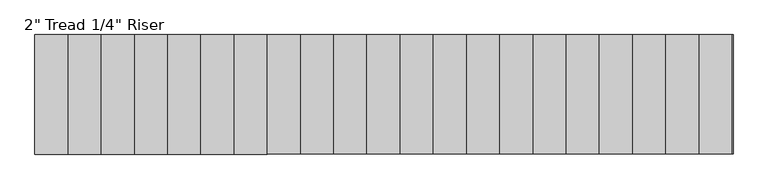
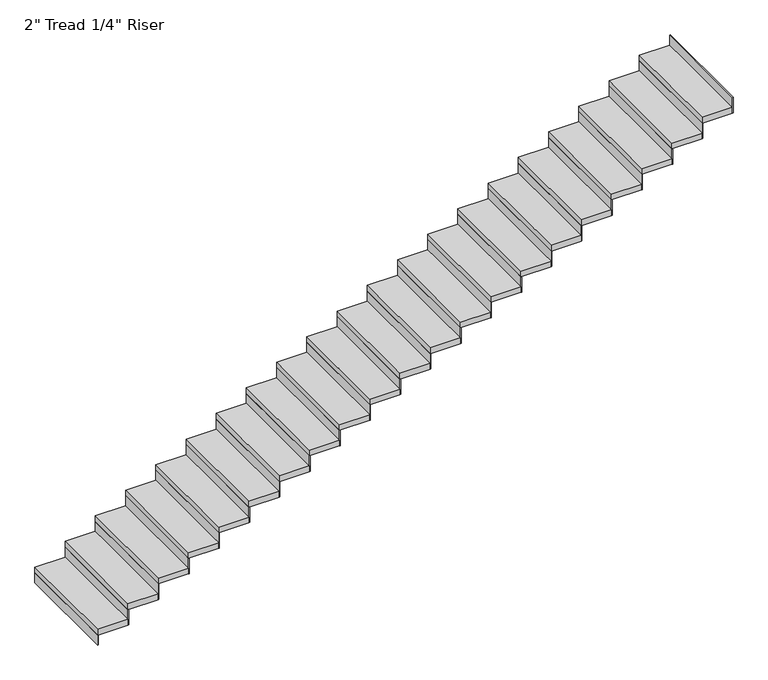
"""IFC4 building model written with IfcOpenShell, lengths in millimetres: stair flight geometry."""

from ifc_helpers import new_model, si_unit, frame, origin, origin_with_axes, place, context, project, spatial, polyline, outline, extrude, source, transform, mapped, element, save


def stair_flight_7b8c4553(model_context):
    return source(origin(), model_context, "Body", "SweptSolid", [
        extrude(outline(polyline([(-14526.9713318, 14907.564969), (-14533.3213318, 14907.564969), (-14533.3213318, 15821.964969), (-14526.9713318, 15821.964969), (-14526.9713318, 14907.564969)])), origin_with_axes(), (0.0, 0.0, 1.0), 87.7454545),
        extrude(outline(polyline([(-14279.3213318, 15821.964969), (-14279.3213318, 14907.564969), (-14533.3213318, 14907.564969), (-14533.3213318, 15821.964969), (-14279.3213318, 15821.964969)])), frame((0.0, 0.0, 87.7454545), z_axis=(0.0, 0.0, 1.0), x_axis=(1.0, 0.0, 0.0)), (0.0, 0.0, 1.0), 50.8),
        extrude(outline(polyline([(-14272.9713318, 14907.564969), (-14279.3213318, 14907.564969), (-14279.3213318, 15821.964969), (-14272.9713318, 15821.964969), (-14272.9713318, 14907.564969)])), frame((0.0, 0.0, 87.7454545), z_axis=(0.0, 0.0, 1.0), x_axis=(1.0, 0.0, 0.0)), (0.0, 0.0, 1.0), 138.5454545),
        extrude(outline(polyline([(-14025.3213318, 15821.964969), (-14025.3213318, 14907.564969), (-14279.3213318, 14907.564969), (-14279.3213318, 15821.964969), (-14025.3213318, 15821.964969)])), frame((0.0, 0.0, 226.2909091), z_axis=(0.0, 0.0, 1.0), x_axis=(1.0, 0.0, 0.0)), (0.0, 0.0, 1.0), 50.8),
        extrude(outline(polyline([(-14018.9713318, 14907.564969), (-14025.3213318, 14907.564969), (-14025.3213318, 15821.964969), (-14018.9713318, 15821.964969), (-14018.9713318, 14907.564969)])), frame((0.0, 0.0, 226.2909091), z_axis=(0.0, 0.0, 1.0), x_axis=(1.0, 0.0, 0.0)), (0.0, 0.0, 1.0), 138.5454545),
        extrude(outline(polyline([(-13771.3213318, 15821.964969), (-13771.3213318, 14907.564969), (-14025.3213318, 14907.564969), (-14025.3213318, 15821.964969), (-13771.3213318, 15821.964969)])), frame((0.0, 0.0, 364.8363636), z_axis=(0.0, 0.0, 1.0), x_axis=(1.0, 0.0, 0.0)), (0.0, 0.0, 1.0), 50.8),
        extrude(outline(polyline([(-13764.9713318, 14907.564969), (-13771.3213318, 14907.564969), (-13771.3213318, 15821.964969), (-13764.9713318, 15821.964969), (-13764.9713318, 14907.564969)])), frame((0.0, 0.0, 364.8363636), z_axis=(0.0, 0.0, 1.0), x_axis=(1.0, 0.0, 0.0)), (0.0, 0.0, 1.0), 138.5454545),
        extrude(outline(polyline([(-13517.3213318, 15821.964969), (-13517.3213318, 14907.564969), (-13771.3213318, 14907.564969), (-13771.3213318, 15821.964969), (-13517.3213318, 15821.964969)])), frame((0.0, 0.0, 503.3818182), z_axis=(0.0, 0.0, 1.0), x_axis=(1.0, 0.0, 0.0)), (0.0, 0.0, 1.0), 50.8),
        extrude(outline(polyline([(-13510.9713318, 14907.564969), (-13517.3213318, 14907.564969), (-13517.3213318, 15821.964969), (-13510.9713318, 15821.964969), (-13510.9713318, 14907.564969)])), frame((0.0, 0.0, 503.3818182), z_axis=(0.0, 0.0, 1.0), x_axis=(1.0, 0.0, 0.0)), (0.0, 0.0, 1.0), 138.5454545),
        extrude(outline(polyline([(-13263.3213318, 15821.964969), (-13263.3213318, 14907.564969), (-13517.3213318, 14907.564969), (-13517.3213318, 15821.964969), (-13263.3213318, 15821.964969)])), frame((0.0, 0.0, 641.9272727), z_axis=(0.0, 0.0, 1.0), x_axis=(1.0, 0.0, 0.0)), (0.0, 0.0, 1.0), 50.8),
        extrude(outline(polyline([(-13256.9713318, 14907.564969), (-13263.3213318, 14907.564969), (-13263.3213318, 15821.964969), (-13256.9713318, 15821.964969), (-13256.9713318, 14907.564969)])), frame((0.0, 0.0, 641.9272727), z_axis=(0.0, 0.0, 1.0), x_axis=(1.0, 0.0, 0.0)), (0.0, 0.0, 1.0), 138.5454545),
        extrude(outline(polyline([(-13009.3213318, 15821.964969), (-13009.3213318, 14907.564969), (-13263.3213318, 14907.564969), (-13263.3213318, 15821.964969), (-13009.3213318, 15821.964969)])), frame((0.0, 0.0, 780.4727273), z_axis=(0.0, 0.0, 1.0), x_axis=(1.0, 0.0, 0.0)), (0.0, 0.0, 1.0), 50.8),
        extrude(outline(polyline([(-13002.9713318, 14907.564969), (-13009.3213318, 14907.564969), (-13009.3213318, 15821.964969), (-13002.9713318, 15821.964969), (-13002.9713318, 14907.564969)])), frame((0.0, 0.0, 780.4727273), z_axis=(0.0, 0.0, 1.0), x_axis=(1.0, 0.0, 0.0)), (0.0, 0.0, 1.0), 138.5454545),
        extrude(outline(polyline([(-12755.3213318, 15821.964969), (-12755.3213318, 14907.564969), (-13009.3213318, 14907.564969), (-13009.3213318, 15821.964969), (-12755.3213318, 15821.964969)])), frame((0.0, 0.0, 919.0181818), z_axis=(0.0, 0.0, 1.0), x_axis=(1.0, 0.0, 0.0)), (0.0, 0.0, 1.0), 50.8),
        extrude(outline(polyline([(-12748.9713318, 14907.564969), (-12755.3213318, 14907.564969), (-12755.3213318, 15821.964969), (-12748.9713318, 15821.964969), (-12748.9713318, 14907.564969)])), frame((0.0, 0.0, 919.0181818), z_axis=(0.0, 0.0, 1.0), x_axis=(1.0, 0.0, 0.0)), (0.0, 0.0, 1.0), 138.5454545),
        extrude(outline(polyline([(-12501.3213318, 15821.964969), (-12501.3213318, 14907.564969), (-12755.3213318, 14907.564969), (-12755.3213318, 15821.964969), (-12501.3213318, 15821.964969)])), frame((0.0, 0.0, 1057.5636364), z_axis=(0.0, 0.0, 1.0), x_axis=(1.0, 0.0, 0.0)), (0.0, 0.0, 1.0), 50.8),
        extrude(outline(polyline([(-12494.9713318, 14907.564969), (-12501.3213318, 14907.564969), (-12501.3213318, 15821.964969), (-12494.9713318, 15821.964969), (-12494.9713318, 14907.564969)])), frame((0.0, 0.0, 1057.5636364), z_axis=(0.0, 0.0, 1.0), x_axis=(1.0, 0.0, 0.0)), (0.0, 0.0, 1.0), 138.5454545),
        extrude(outline(polyline([(-12247.3213318, 15821.964969), (-12247.3213318, 14907.564969), (-12501.3213318, 14907.564969), (-12501.3213318, 15821.964969), (-12247.3213318, 15821.964969)])), frame((0.0, 0.0, 1196.1090909), z_axis=(0.0, 0.0, 1.0), x_axis=(1.0, 0.0, 0.0)), (0.0, 0.0, 1.0), 50.8),
        extrude(outline(polyline([(-12240.9713318, 14907.564969), (-12247.3213318, 14907.564969), (-12247.3213318, 15821.964969), (-12240.9713318, 15821.964969), (-12240.9713318, 14907.564969)])), frame((0.0, 0.0, 1196.1090909), z_axis=(0.0, 0.0, 1.0), x_axis=(1.0, 0.0, 0.0)), (0.0, 0.0, 1.0), 138.5454545),
        extrude(outline(polyline([(-11993.3213318, 15821.964969), (-11993.3213318, 14907.564969), (-12247.3213318, 14907.564969), (-12247.3213318, 15821.964969), (-11993.3213318, 15821.964969)])), frame((0.0, 0.0, 1334.6545455), z_axis=(0.0, 0.0, 1.0), x_axis=(1.0, 0.0, 0.0)), (0.0, 0.0, 1.0), 50.8),
        extrude(outline(polyline([(-11986.9713318, 14907.564969), (-11993.3213318, 14907.564969), (-11993.3213318, 15821.964969), (-11986.9713318, 15821.964969), (-11986.9713318, 14907.564969)])), frame((0.0, 0.0, 1334.6545455), z_axis=(0.0, 0.0, 1.0), x_axis=(1.0, 0.0, 0.0)), (0.0, 0.0, 1.0), 138.5454545),
        extrude(outline(polyline([(-11739.3213318, 15821.964969), (-11739.3213318, 14907.564969), (-11993.3213318, 14907.564969), (-11993.3213318, 15821.964969), (-11739.3213318, 15821.964969)])), frame((0.0, 0.0, 1473.2), z_axis=(0.0, 0.0, 1.0), x_axis=(1.0, 0.0, 0.0)), (0.0, 0.0, 1.0), 50.8),
        extrude(outline(polyline([(-11732.9713318, 14907.564969), (-11739.3213318, 14907.564969), (-11739.3213318, 15821.964969), (-11732.9713318, 15821.964969), (-11732.9713318, 14907.564969)])), frame((0.0, 0.0, 1473.2), z_axis=(0.0, 0.0, 1.0), x_axis=(1.0, 0.0, 0.0)), (0.0, 0.0, 1.0), 138.5454545),
        extrude(outline(polyline([(-11485.3213318, 15821.964969), (-11485.3213318, 14907.564969), (-11739.3213318, 14907.564969), (-11739.3213318, 15821.964969), (-11485.3213318, 15821.964969)])), frame((0.0, 0.0, 1611.7454545), z_axis=(0.0, 0.0, 1.0), x_axis=(1.0, 0.0, 0.0)), (0.0, 0.0, 1.0), 50.8),
        extrude(outline(polyline([(-11478.9713318, 14907.564969), (-11485.3213318, 14907.564969), (-11485.3213318, 15821.964969), (-11478.9713318, 15821.964969), (-11478.9713318, 14907.564969)])), frame((0.0, 0.0, 1611.7454545), z_axis=(0.0, 0.0, 1.0), x_axis=(1.0, 0.0, 0.0)), (0.0, 0.0, 1.0), 138.5454545),
        extrude(outline(polyline([(-11231.3213318, 15821.964969), (-11231.3213318, 14907.564969), (-11485.3213318, 14907.564969), (-11485.3213318, 15821.964969), (-11231.3213318, 15821.964969)])), frame((0.0, 0.0, 1750.2909091), z_axis=(0.0, 0.0, 1.0), x_axis=(1.0, 0.0, 0.0)), (0.0, 0.0, 1.0), 50.8),
        extrude(outline(polyline([(-11224.9713318, 14907.564969), (-11231.3213318, 14907.564969), (-11231.3213318, 15821.964969), (-11224.9713318, 15821.964969), (-11224.9713318, 14907.564969)])), frame((0.0, 0.0, 1750.2909091), z_axis=(0.0, 0.0, 1.0), x_axis=(1.0, 0.0, 0.0)), (0.0, 0.0, 1.0), 138.5454545),
        extrude(outline(polyline([(-10977.3213318, 15821.964969), (-10977.3213318, 14907.564969), (-11231.3213318, 14907.564969), (-11231.3213318, 15821.964969), (-10977.3213318, 15821.964969)])), frame((0.0, 0.0, 1888.8363636), z_axis=(0.0, 0.0, 1.0), x_axis=(1.0, 0.0, 0.0)), (0.0, 0.0, 1.0), 50.8),
        extrude(outline(polyline([(-10970.9713318, 14907.564969), (-10977.3213318, 14907.564969), (-10977.3213318, 15821.964969), (-10970.9713318, 15821.964969), (-10970.9713318, 14907.564969)])), frame((0.0, 0.0, 1888.8363636), z_axis=(0.0, 0.0, 1.0), x_axis=(1.0, 0.0, 0.0)), (0.0, 0.0, 1.0), 138.5454545),
        extrude(outline(polyline([(-10723.3213318, 15821.964969), (-10723.3213318, 14907.564969), (-10977.3213318, 14907.564969), (-10977.3213318, 15821.964969), (-10723.3213318, 15821.964969)])), frame((0.0, 0.0, 2027.3818182), z_axis=(0.0, 0.0, 1.0), x_axis=(1.0, 0.0, 0.0)), (0.0, 0.0, 1.0), 50.8),
        extrude(outline(polyline([(-10716.9713318, 14907.564969), (-10723.3213318, 14907.564969), (-10723.3213318, 15821.964969), (-10716.9713318, 15821.964969), (-10716.9713318, 14907.564969)])), frame((0.0, 0.0, 2027.3818182), z_axis=(0.0, 0.0, 1.0), x_axis=(1.0, 0.0, 0.0)), (0.0, 0.0, 1.0), 138.5454545),
        extrude(outline(polyline([(-10469.3213318, 15821.964969), (-10469.3213318, 14907.564969), (-10723.3213318, 14907.564969), (-10723.3213318, 15821.964969), (-10469.3213318, 15821.964969)])), frame((0.0, 0.0, 2165.9272727), z_axis=(0.0, 0.0, 1.0), x_axis=(1.0, 0.0, 0.0)), (0.0, 0.0, 1.0), 50.8),
        extrude(outline(polyline([(-10462.9713318, 14907.564969), (-10469.3213318, 14907.564969), (-10469.3213318, 15821.964969), (-10462.9713318, 15821.964969), (-10462.9713318, 14907.564969)])), frame((0.0, 0.0, 2165.9272727), z_axis=(0.0, 0.0, 1.0), x_axis=(1.0, 0.0, 0.0)), (0.0, 0.0, 1.0), 138.5454545),
        extrude(outline(polyline([(-10215.3213318, 15821.964969), (-10215.3213318, 14907.564969), (-10469.3213318, 14907.564969), (-10469.3213318, 15821.964969), (-10215.3213318, 15821.964969)])), frame((0.0, 0.0, 2304.4727273), z_axis=(0.0, 0.0, 1.0), x_axis=(1.0, 0.0, 0.0)), (0.0, 0.0, 1.0), 50.8),
        extrude(outline(polyline([(-10208.9713318, 14907.564969), (-10215.3213318, 14907.564969), (-10215.3213318, 15821.964969), (-10208.9713318, 15821.964969), (-10208.9713318, 14907.564969)])), frame((0.0, 0.0, 2304.4727273), z_axis=(0.0, 0.0, 1.0), x_axis=(1.0, 0.0, 0.0)), (0.0, 0.0, 1.0), 138.5454545),
        extrude(outline(polyline([(-9961.3213318, 15821.964969), (-9961.3213318, 14907.564969), (-10215.3213318, 14907.564969), (-10215.3213318, 15821.964969), (-9961.3213318, 15821.964969)])), frame((0.0, 0.0, 2443.0181818), z_axis=(0.0, 0.0, 1.0), x_axis=(1.0, 0.0, 0.0)), (0.0, 0.0, 1.0), 50.8),
        extrude(outline(polyline([(-9954.9713318, 14907.564969), (-9961.3213318, 14907.564969), (-9961.3213318, 15821.964969), (-9954.9713318, 15821.964969), (-9954.9713318, 14907.564969)])), frame((0.0, 0.0, 2443.0181818), z_axis=(0.0, 0.0, 1.0), x_axis=(1.0, 0.0, 0.0)), (0.0, 0.0, 1.0), 138.5454545),
        extrude(outline(polyline([(-9707.3213318, 15821.964969), (-9707.3213318, 14907.564969), (-9961.3213318, 14907.564969), (-9961.3213318, 15821.964969), (-9707.3213318, 15821.964969)])), frame((0.0, 0.0, 2581.5636364), z_axis=(0.0, 0.0, 1.0), x_axis=(1.0, 0.0, 0.0)), (0.0, 0.0, 1.0), 50.8),
        extrude(outline(polyline([(-9700.9713318, 14907.564969), (-9707.3213318, 14907.564969), (-9707.3213318, 15821.964969), (-9700.9713318, 15821.964969), (-9700.9713318, 14907.564969)])), frame((0.0, 0.0, 2581.5636364), z_axis=(0.0, 0.0, 1.0), x_axis=(1.0, 0.0, 0.0)), (0.0, 0.0, 1.0), 138.5454545),
        extrude(outline(polyline([(-9453.3213318, 15821.964969), (-9453.3213318, 14907.564969), (-9707.3213318, 14907.564969), (-9707.3213318, 15821.964969), (-9453.3213318, 15821.964969)])), frame((0.0, 0.0, 2720.1090909), z_axis=(0.0, 0.0, 1.0), x_axis=(1.0, 0.0, 0.0)), (0.0, 0.0, 1.0), 50.8),
        extrude(outline(polyline([(-9446.9713318, 14907.564969), (-9453.3213318, 14907.564969), (-9453.3213318, 15821.964969), (-9446.9713318, 15821.964969), (-9446.9713318, 14907.564969)])), frame((0.0, 0.0, 2720.1090909), z_axis=(0.0, 0.0, 1.0), x_axis=(1.0, 0.0, 0.0)), (0.0, 0.0, 1.0), 138.5454545),
        extrude(outline(polyline([(-9192.9713318, 14907.564969), (-9199.3213318, 14907.564969), (-9199.3213318, 15821.964969), (-9192.9713318, 15821.964969), (-9192.9713318, 14907.564969)])), frame((0.0, 0.0, 2858.6545455), z_axis=(0.0, 0.0, 1.0), x_axis=(1.0, 0.0, 0.0)), (0.0, 0.0, 1.0), 138.5454545),
        extrude(outline(polyline([(-9199.3213318, 15821.964969), (-9199.3213318, 14907.564969), (-9453.3213318, 14907.564969), (-9453.3213318, 15821.964969), (-9199.3213318, 15821.964969)])), frame((0.0, 0.0, 2858.6545455), z_axis=(0.0, 0.0, 1.0), x_axis=(1.0, 0.0, 0.0)), (0.0, 0.0, 1.0), 50.8),
    ])


if __name__ == "__main__":
    model = new_model("IFC4")
    model_context = context("Model", 3, world=origin())
    ifc_project = project(units=[si_unit("LENGTHUNIT", "METRE", prefix="MILLI")], contexts=[model_context])
    site = spatial("IfcSite", under=ifc_project)
    building = spatial("IfcBuilding", under=site)
    placement = place(None, origin())
    stair_flight_shape = stair_flight_7b8c4553(model_context)
    element("IfcStairFlight", 1, ObjectType="2\" Tread 1/4\" Riser", at=placement, inside=building, context=model_context, shape_type="MappedRepresentation", body=[
        mapped(stair_flight_shape, transform((0.0, 0.0, 0.0), x_axis=(1.0, 0.0, 0.0), y_axis=(0.0, 1.0, 0.0), z_axis=(0.0, 0.0, 1.0))),
    ])
    save(model, "model.ifc")
